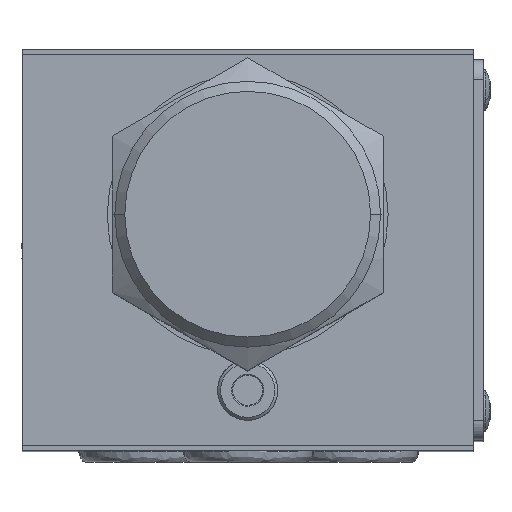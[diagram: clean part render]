
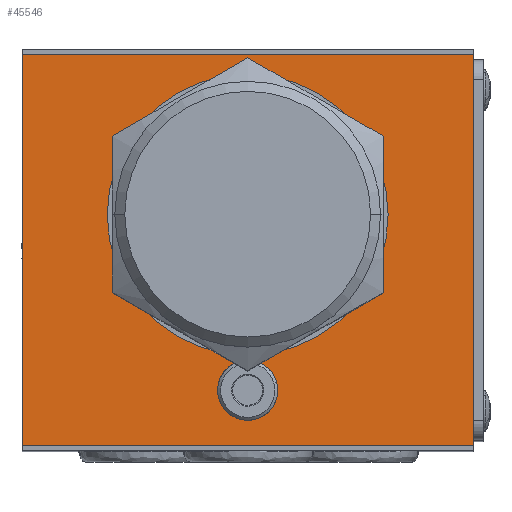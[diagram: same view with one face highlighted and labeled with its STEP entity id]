
A CAD part, top view. The second image highlights one B-rep face of the part: STEP entity #45546.
In plain terms, the highlighted planar face has unit normal (0, 0, 1).
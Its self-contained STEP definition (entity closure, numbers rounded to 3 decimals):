
#584 = LINE ( 'NONE', #16569, #61705 ) ;
#589 = AXIS2_PLACEMENT_3D ( 'NONE', #55564, #41557, #5861 ) ;
#741 = DIRECTION ( 'NONE',  ( 0., 0., 1. ) ) ;
#1444 = CARTESIAN_POINT ( 'NONE',  ( -22.5, -19.5, 46.5 ) ) ;
#5861 = DIRECTION ( 'NONE',  ( 1., 0., 0. ) ) ;
#6340 = EDGE_LOOP ( 'NONE', ( #55120, #37686 ) ) ;
#6978 = LINE ( 'NONE', #40540, #60234 ) ;
#8307 = EDGE_CURVE ( 'NONE', #64304, #48986, #12907, .T. ) ;
#8889 = EDGE_CURVE ( 'NONE', #21591, #39157, #16204, .T. ) ;
#9511 = VECTOR ( 'NONE', #27597, 1000. ) ;
#9552 = CARTESIAN_POINT ( 'NONE',  ( 22.5, 20., 46.5 ) ) ;
#10359 = DIRECTION ( 'NONE',  ( 1., 0., 0. ) ) ;
#12907 = CIRCLE ( 'NONE', #54193, 3. ) ;
#13111 = FACE_BOUND ( 'NONE', #61152, .T. ) ;
#15126 = PLANE ( 'NONE',  #589 ) ;
#15239 = EDGE_CURVE ( 'NONE', #48986, #64304, #17507, .T. ) ;
#16037 = EDGE_LOOP ( 'NONE', ( #32589, #22480, #64303, #52615 ) ) ;
#16204 = CIRCLE ( 'NONE', #17461, 14. ) ;
#16438 = CARTESIAN_POINT ( 'NONE',  ( 0., -14., 46.5 ) ) ;
#16569 = CARTESIAN_POINT ( 'NONE',  ( -22.5, 19.5, 46.5 ) ) ;
#17461 = AXIS2_PLACEMENT_3D ( 'NONE', #34880, #741, #10359 ) ;
#17507 = CIRCLE ( 'NONE', #21481, 3. ) ;
#18730 = CARTESIAN_POINT ( 'NONE',  ( -22.5, 19.5, 46.5 ) ) ;
#18857 = FACE_BOUND ( 'NONE', #6340, .T. ) ;
#18891 = CARTESIAN_POINT ( 'NONE',  ( -3., -14., 46.5 ) ) ;
#19096 = DIRECTION ( 'NONE',  ( 0., 0., 1. ) ) ;
#19311 = CARTESIAN_POINT ( 'NONE',  ( 0., -14., 46.5 ) ) ;
#21481 = AXIS2_PLACEMENT_3D ( 'NONE', #19311, #19096, #33941 ) ;
#21591 = VERTEX_POINT ( 'NONE', #40393 ) ;
#22304 = CIRCLE ( 'NONE', #46067, 14. ) ;
#22480 = ORIENTED_EDGE ( 'NONE', *, *, #36422, .T. ) ;
#22603 = CARTESIAN_POINT ( 'NONE',  ( 3., -14., 46.5 ) ) ;
#22723 = EDGE_CURVE ( 'NONE', #39157, #21591, #22304, .T. ) ;
#25508 = ORIENTED_EDGE ( 'NONE', *, *, #22723, .F. ) ;
#26476 = DIRECTION ( 'NONE',  ( 1., 0., 0. ) ) ;
#27597 = DIRECTION ( 'NONE',  ( 0., -1., 0. ) ) ;
#27728 = CARTESIAN_POINT ( 'NONE',  ( 0., 3.5, 46.5 ) ) ;
#29982 = LINE ( 'NONE', #9552, #35414 ) ;
#30846 = VERTEX_POINT ( 'NONE', #43938 ) ;
#32589 = ORIENTED_EDGE ( 'NONE', *, *, #37982, .F. ) ;
#33941 = DIRECTION ( 'NONE',  ( 1., 0., 0. ) ) ;
#34880 = CARTESIAN_POINT ( 'NONE',  ( 0., 3.5, 46.5 ) ) ;
#35414 = VECTOR ( 'NONE', #44544, 1000. ) ;
#36422 = EDGE_CURVE ( 'NONE', #55435, #30846, #29982, .T. ) ;
#36871 = LINE ( 'NONE', #64352, #9511 ) ;
#37686 = ORIENTED_EDGE ( 'NONE', *, *, #15239, .F. ) ;
#37982 = EDGE_CURVE ( 'NONE', #55435, #63674, #6978, .T. ) ;
#38856 = EDGE_CURVE ( 'NONE', #58103, #30846, #584, .T. ) ;
#39157 = VERTEX_POINT ( 'NONE', #60001 ) ;
#40393 = CARTESIAN_POINT ( 'NONE',  ( -14., 3.5, 46.5 ) ) ;
#40540 = CARTESIAN_POINT ( 'NONE',  ( 22.5, -19.5, 46.5 ) ) ;
#40758 = DIRECTION ( 'NONE',  ( -1., 0., 0. ) ) ;
#41557 = DIRECTION ( 'NONE',  ( 0., 0., 1. ) ) ;
#43938 = CARTESIAN_POINT ( 'NONE',  ( 22.5, 19.5, 46.5 ) ) ;
#44544 = DIRECTION ( 'NONE',  ( 0., 1., 0. ) ) ;
#45546 = ADVANCED_FACE ( 'NONE', ( #18857, #13111, #58772 ), #15126, .T. ) ;
#45947 = DIRECTION ( 'NONE',  ( 0., 0., 1. ) ) ;
#46067 = AXIS2_PLACEMENT_3D ( 'NONE', #27728, #61879, #52034 ) ;
#48606 = CARTESIAN_POINT ( 'NONE',  ( 22.5, -19.5, 46.5 ) ) ;
#48986 = VERTEX_POINT ( 'NONE', #18891 ) ;
#51181 = EDGE_CURVE ( 'NONE', #58103, #63674, #36871, .T. ) ;
#51541 = DIRECTION ( 'NONE',  ( 1., 0., 0. ) ) ;
#52034 = DIRECTION ( 'NONE',  ( 1., 0., 0. ) ) ;
#52615 = ORIENTED_EDGE ( 'NONE', *, *, #51181, .T. ) ;
#53724 = ORIENTED_EDGE ( 'NONE', *, *, #8889, .F. ) ;
#54193 = AXIS2_PLACEMENT_3D ( 'NONE', #16438, #45947, #26476 ) ;
#55120 = ORIENTED_EDGE ( 'NONE', *, *, #8307, .F. ) ;
#55435 = VERTEX_POINT ( 'NONE', #48606 ) ;
#55564 = CARTESIAN_POINT ( 'NONE',  ( -22.5, -20., 46.5 ) ) ;
#58103 = VERTEX_POINT ( 'NONE', #18730 ) ;
#58772 = FACE_OUTER_BOUND ( 'NONE', #16037, .T. ) ;
#60001 = CARTESIAN_POINT ( 'NONE',  ( 14., 3.5, 46.5 ) ) ;
#60234 = VECTOR ( 'NONE', #40758, 1000. ) ;
#61152 = EDGE_LOOP ( 'NONE', ( #25508, #53724 ) ) ;
#61705 = VECTOR ( 'NONE', #51541, 1000. ) ;
#61879 = DIRECTION ( 'NONE',  ( 0., 0., 1. ) ) ;
#63674 = VERTEX_POINT ( 'NONE', #1444 ) ;
#64303 = ORIENTED_EDGE ( 'NONE', *, *, #38856, .F. ) ;
#64304 = VERTEX_POINT ( 'NONE', #22603 ) ;
#64352 = CARTESIAN_POINT ( 'NONE',  ( -22.5, 20., 46.5 ) ) ;
